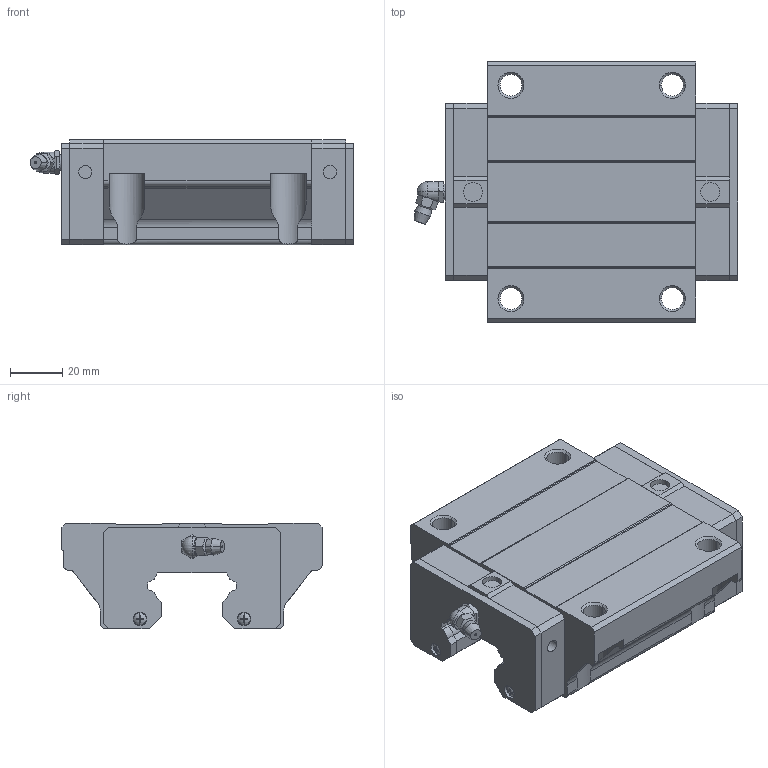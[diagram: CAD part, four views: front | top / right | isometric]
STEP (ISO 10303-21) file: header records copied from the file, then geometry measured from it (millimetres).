
FILE_DESCRIPTION(('starvars output'),'2;1');
FILE_NAME('cv20190610061141000021777.stp','06:11:42 2019/06/10',( 'Thomas Industrial Network Germany GmbH'),( 'Thomas Industrial Network Germany GmbH'),'unknown preprocess','ACIS' ,'unknown authorization');
FILE_SCHEMA(('CONFIG_CONTROL_DESIGN {UNKNOWN IMPLEMENTATION LEVEL}'));
Length unit declared in the file: millimetre
Products named in the file (10): PRODUCT_ID_1; PRODUCT_ID_2; PRODUCT_ID_3; PRODUCT_ID_4; PRODUCT_ID_5; PRODUCT_ID_6; PRODUCT_ID_7; PRODUCT_ID_8; PRODUCT_ID_9; PRODUCT_ID_10
Bounding box: 124.4 x 100 x 40.5 mm (x, y, z)
Volume: 288774 mm3; surface area: 59226 mm2
Topology: 10 solids, 10 shells, 414 faces, 1087 edges, 702 vertices
Faces by surface type: plane 262, cylinder 84, cone 56, sphere 12
Entity records: 12380 total; most frequent: ORIENTED_EDGE 2166, CARTESIAN_POINT 2161, DIRECTION 1680, EDGE_CURVE 1083, VERTEX_POINT 702, VECTOR 682, LINE 682, AXIS2_PLACEMENT_3D 499
